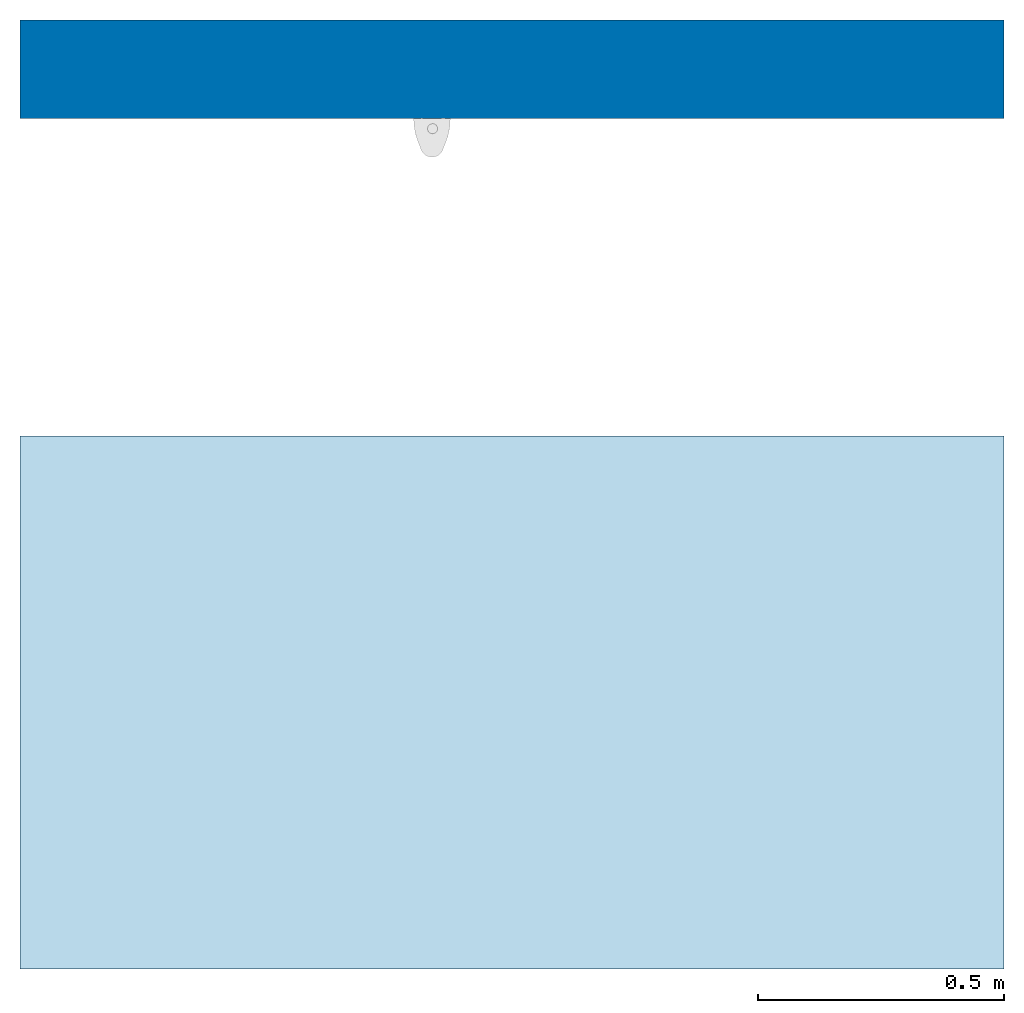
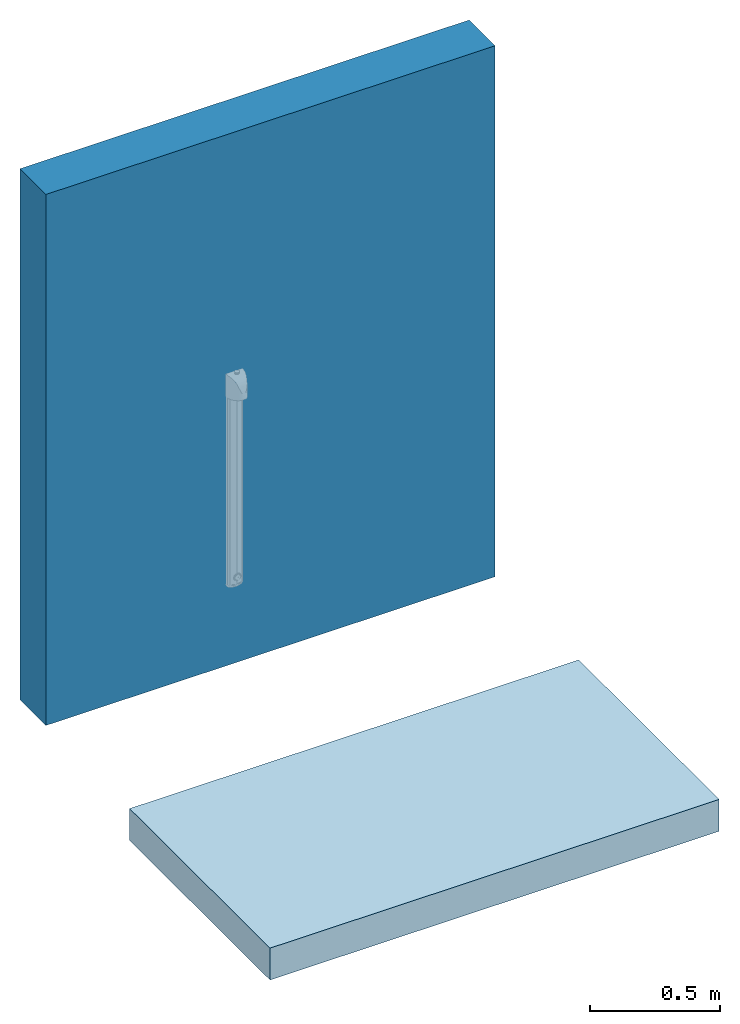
# One storey, incomplete: 1 slab, 1 wall.
"""IFC2X3 building model written with IfcOpenShell, lengths in millimetres."""

from ifc_helpers import new_model, entity, si_unit, converted_unit, frame, frame_2d, origin, place, context, project, spatial, rectangle, extrude, material, layer, layer_set, layer_usage, element, save


model = new_model("IFC2X3")

# Units and contexts
model_context = context("Model", 3, precision=1e-06, world=origin())
plan_context = context("Plan", 3, precision=1e-06, world=origin())
ifc_project = project(units=[si_unit("LENGTHUNIT", "METRE", prefix="MILLI"), si_unit("AREAUNIT", "SQUARE_METRE", prefix="MILLI"), si_unit("VOLUMEUNIT", "CUBIC_METRE", prefix="MILLI"), converted_unit("PLANEANGLEUNIT", "DEGREE", entity("IfcRatioMeasure", 0.01745329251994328), si_unit("PLANEANGLEUNIT", "RADIAN"), dimensions=[0, 0, 0, 0, 0, 0, 0]), si_unit("TIMEUNIT", "SECOND")], contexts=[model_context, plan_context])

# Site, building, storey
site_placement = place(None, origin())
site = spatial("IfcSite", under=ifc_project, at=site_placement, Name="Default", CompositionType="ELEMENT")
building_placement = place(site_placement, origin())
building = spatial("IfcBuilding", under=site, at=building_placement, CompositionType="ELEMENT")
storey_placement = place(building_placement, origin())
storey = spatial("IfcBuildingStorey", under=building, at=storey_placement, Name="Level 1", CompositionType="ELEMENT", Elevation=0.0)

# Slab
ifc_material_1 = material(Name="Default Floor")
ifc_layer_1 = layer(ifc_material_1, 150.0)
ifc_layer_set_1 = layer_set([ifc_layer_1], Name="Floor:Generic 150mm")
ifc_layer_usage_1 = layer_usage(ifc_layer_set_1, "AXIS3", "POSITIVE", 0.0)
slab_placement = place(storey_placement, frame((-8133.340511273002, -10271.41131355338, -150.0)))
element("IfcSlab", 1, at=slab_placement, inside=storey, material=ifc_layer_usage_1, Name="Floor:Generic 150mm", ObjectType="Floor:Generic 150mm", PredefinedType="FLOOR", context=model_context, shape_type="SweptSolid", body=[
    extrude(rectangle(XDim=1083.256167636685, YDim=1999.999999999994, at=frame_2d((0.0, 0.0), x_axis=(0.0, -1.0))), frame((1000.0, 541.6280838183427, 150.0), z_axis=(0.0, 0.0, -1.0), x_axis=(-1.0, 0.0, 0.0)), (0.0, 0.0, 1.0), 150.0),
])

# Wall
ifc_material_2 = material(Name="Default Wall")
ifc_layer_2 = layer(ifc_material_2, 200.0)
ifc_layer_set_2 = layer_set([ifc_layer_2], Name="Basic Wall:Generic - 200mm")
ifc_layer_usage_2 = layer_usage(ifc_layer_set_2, "AXIS2", "NEGATIVE", 100.0)
wall_placement = place(storey_placement, frame((-8133.340511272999, -8442.997041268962, 0.0)))
element("IfcWallStandardCase", 2, at=wall_placement, inside=storey, material=ifc_layer_usage_2, Name="Basic Wall:Generic - 200mm", ObjectType="Basic Wall:Generic - 200mm:398", context=model_context, shape_type="SweptSolid", body=[
    extrude(rectangle(XDim=2000.000000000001, YDim=200.0, at=frame_2d((1000.0, 0.0), x_axis=(-1.0, 0.0))), origin(), (0.0, 0.0, 1.0), 2500.0),
])

save(model, "model.ifc")
